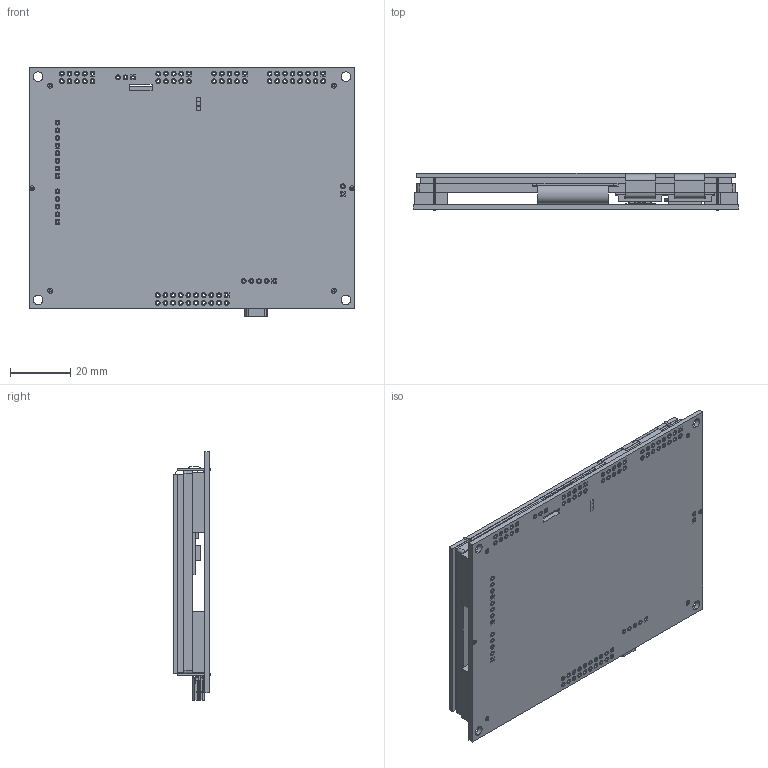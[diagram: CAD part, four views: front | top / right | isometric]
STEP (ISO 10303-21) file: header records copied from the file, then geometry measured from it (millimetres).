
FILE_DESCRIPTION (( 'STEP AP214' ), '1' );
FILE_NAME ('TU480x272C-K61XA1MU.STEP', '2015-02-17T12:48:50', ( '' ), ( '' ), 'SwSTEP 2.0', 'SolidWorks 2015', '' );
FILE_SCHEMA (( 'AUTOMOTIVE_DESIGN' ));
Length unit declared in the file: millimetre
Products named in the file (14): MPCT480; TU480x272C-K612A1-m; Micro SD; MCBK42; MOLEX - 54819-0572 - Mini USB; MPCT Conn 4; TU480x272C-K61XA1MU
Assembly tree (7 placements, depth 2):
  Micro SD
  MCBK42
  MOLEX - 54819-0572 - Mini USB
  MPCT Conn 4
  MPCT Conn 4
Bounding box: 108 x 12.44 x 82.5 mm (x, y, z)
Volume: 48806.8 mm3; surface area: 64216.6 mm2
Topology: 9 solids, 10 shells, 1465 faces, 3664 edges, 2420 vertices
Faces by surface type: plane 769, cylinder 669, bspline 27
Entity records: 55601 total; most frequent: CARTESIAN_POINT 8673, DIRECTION 7749, ORIENTED_EDGE 7191, EDGE_CURVE 3628, AXIS2_PLACEMENT_3D 2759, VERTEX_POINT 2396, LINE 2231, VECTOR 2231
